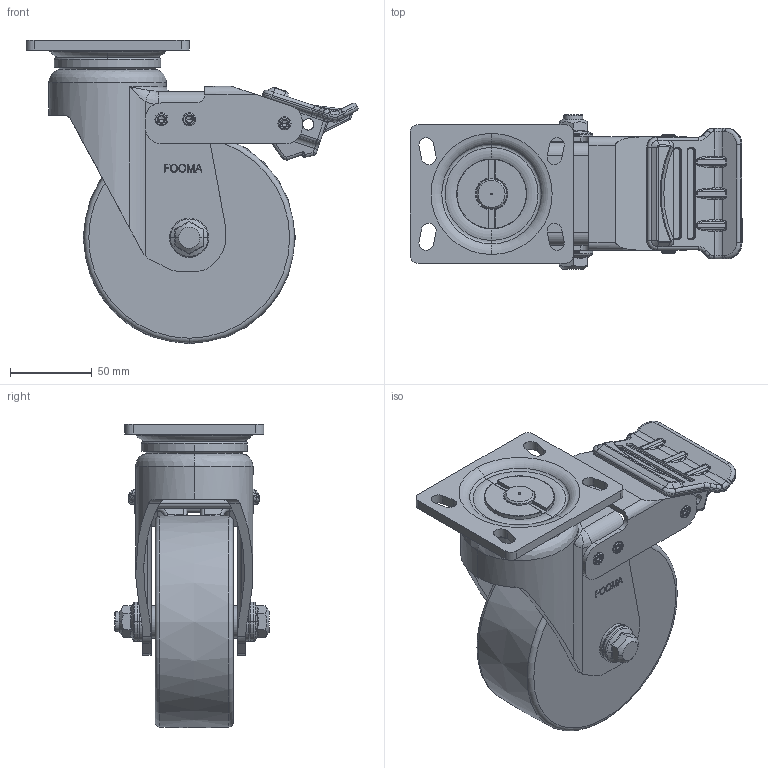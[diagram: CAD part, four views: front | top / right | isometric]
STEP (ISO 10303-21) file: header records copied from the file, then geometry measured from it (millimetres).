
FILE_DESCRIPTION((''),'2;1');
FILE_NAME('PH-130-BSF-W48.stp','2013-12-12T10:22:44',(''),(''),'Mechanical Desktop 2009','Mechanical Desktop 2009',', , ');
FILE_SCHEMA(('CONFIG_CONTROL_DESIGN'));
Length unit declared in the file: millimetre
Products named in the file (2): PH-130-BSF-W48; PLATE
Assembly tree (1 placements, depth 2):
  PH-130-BSF-W48
    PLATE
Bounding box: 203.45 x 94.8 x 185.95 mm (x, y, z)
Volume: 943295.3 mm3; surface area: 163102.8 mm2
Topology: 10 solids, 10 shells, 1107 faces, 2812 edges, 1729 vertices
Faces by surface type: cylinder 356, bspline 347, plane 257, torus 96, cone 39, sphere 12
Entity records: 42899 total; most frequent: CARTESIAN_POINT 17313, ORIENTED_EDGE 5548, DIRECTION 5058, EDGE_CURVE 2774, AXIS2_PLACEMENT_3D 1997, VERTEX_POINT 1729, EDGE_LOOP 1197, FACE_OUTER_BOUND 1107
